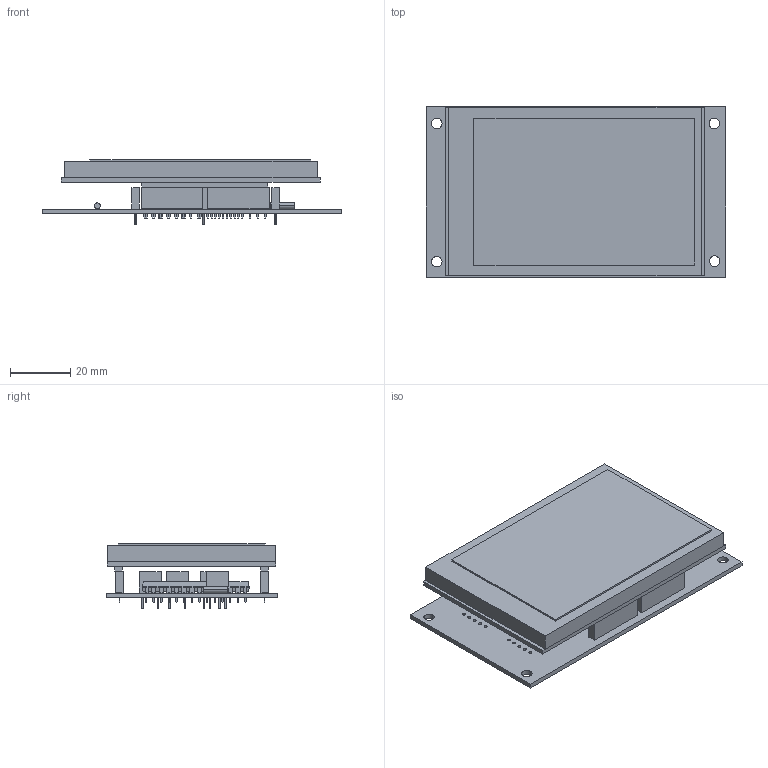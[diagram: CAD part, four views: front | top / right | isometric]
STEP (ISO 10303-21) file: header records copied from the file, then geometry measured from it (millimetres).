
FILE_DESCRIPTION(/* description */ ('VariCAD 2014-2.05 AP-214'),/* implementation_level */ '2;1');
FILE_NAME(/* name */ 'FensterE2kpl.stp',/* time_stamp */ '2026-02-12T09:35:13+01:00',/* author */ (''),/* organization */ (''),/* preprocessor_version */ 'ST-DEVELOPER v14',/* originating_system */ 'VariCAD 2014-2.05; kernel version (20130303)',/* authorisation */ '');
FILE_SCHEMA (('AUTOMOTIVE_DESIGN'));
Products named in the file (21): FensterE2kpl; COMPOUND; SOLID
Assembly tree (20 placements, depth 2):
  FensterE2kpl
    COMPOUND
    COMPOUND
    COMPOUND
    COMPOUND
    SOLID
    COMPOUND
    COMPOUND
    (unnamed)
    COMPOUND
    COMPOUND
    COMPOUND
    COMPOUND
    COMPOUND
    SOLID
    COMPOUND
    COMPOUND
    SOLID
    SOLID
    SOLID
    SOLID
Bounding box: 99.5 x 56.5 x 21.41 mm (x, y, z)
Volume: 47702.3 mm3; surface area: 30828 mm2
Topology: 50 solids, 50 shells, 2243 faces, 5878 edges, 3836 vertices
Faces by surface type: plane 1821, cylinder 422
Entity records: 69073 total; most frequent: CARTESIAN_POINT 12144, ORIENTED_EDGE 11756, DIRECTION 11296, EDGE_CURVE 5878, LINE 4992, VECTOR 4992, VERTEX_POINT 3836, AXIS2_PLACEMENT_3D 3152
